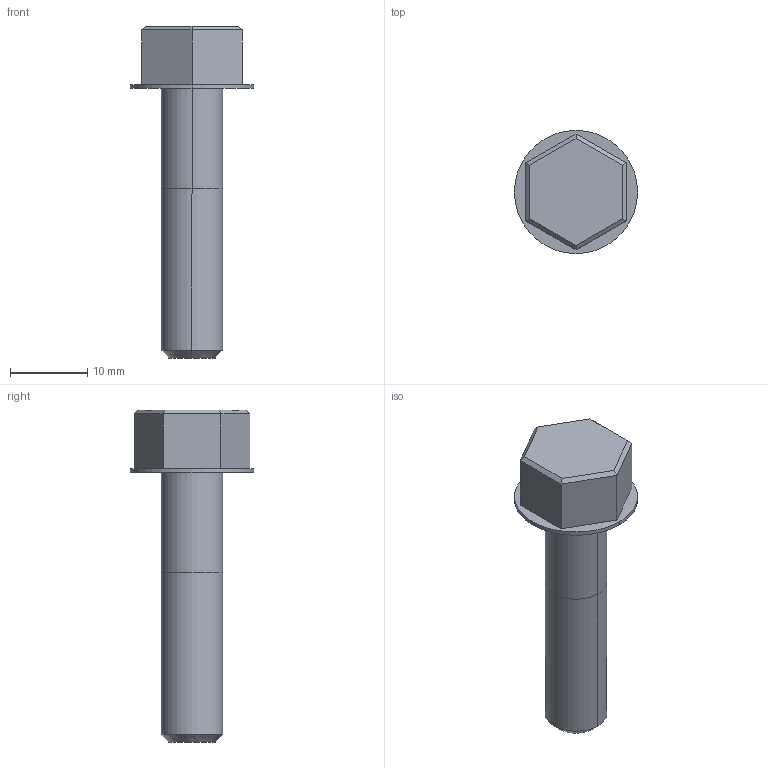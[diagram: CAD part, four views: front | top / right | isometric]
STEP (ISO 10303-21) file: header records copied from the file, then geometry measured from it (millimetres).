
FILE_DESCRIPTION (( 'STEP AP214' ), '1' );
FILE_NAME ('YIS40D-BF-08 Áîëò ñ ôëàíöåì Ì8õ35.STEP', '2025-09-04T08:08:32', ( '' ), ( '' ), 'SwSTEP 2.0', 'SolidWorks 2023', '' );
FILE_SCHEMA (( 'AUTOMOTIVE_DESIGN' ));
Length unit declared in the file: millimetre
Products named in the file (1): YIS40D-BF-08 Болт с фланцем М8х35
Bounding box: 16 x 16 x 43.1 mm (x, y, z)
Volume: 2955.1 mm3; surface area: 1619.6 mm2
Topology: 1 solids, 1 shells, 24 faces, 50 edges, 30 vertices
Faces by surface type: plane 16, cylinder 6, cone 2
Entity records: 649 total; most frequent: DIRECTION 112, CARTESIAN_POINT 105, ORIENTED_EDGE 100, EDGE_CURVE 50, VECTOR 38, LINE 38, AXIS2_PLACEMENT_3D 37, VERTEX_POINT 30
